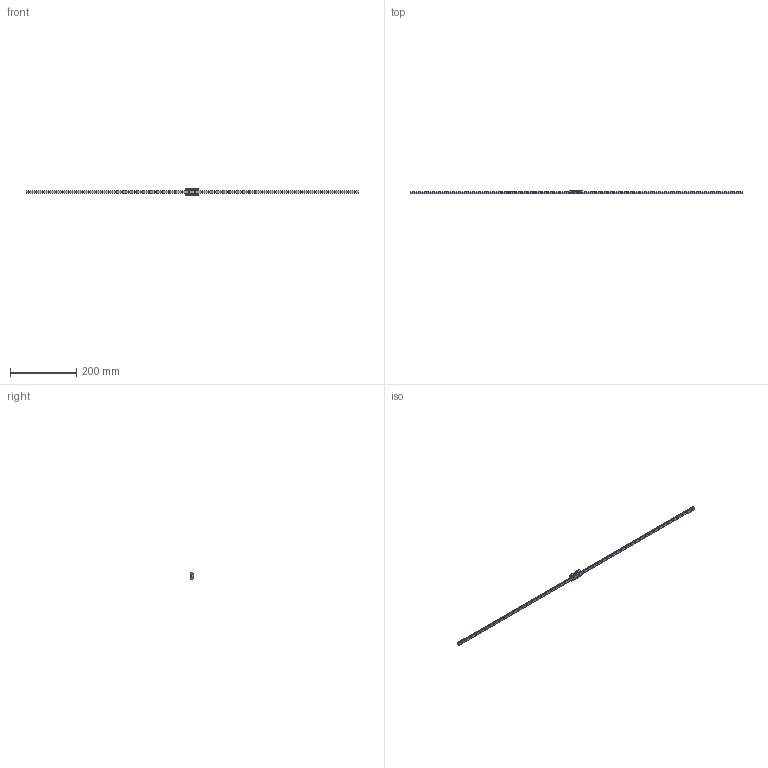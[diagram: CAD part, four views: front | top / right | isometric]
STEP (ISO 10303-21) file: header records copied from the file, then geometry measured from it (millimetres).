
FILE_DESCRIPTION( ( '' ), '1' );
FILE_NAME( 'C:/Users/v3-771-32344/Documents/Website 2016/STEP/SRS9N1UU1000100479.6000.stp', '2016-11-10T13:09:32', ( '' ), ( '' ), ' ', ' ', ' ' );
FILE_SCHEMA( ( 'CONFIG_CONTROL_DESIGN' ) );
Length unit declared in the file: millimetre
Products named in the file (2): 1; 2
Bounding box: 1000 x 10 x 20 mm (x, y, z)
Volume: 44677.1 mm3; surface area: 35263.4 mm2
Topology: 2 solids, 2 shells, 374 faces, 926 edges, 604 vertices
Faces by surface type: cylinder 230, plane 128, cone 16
Entity records: 11506 total; most frequent: DIRECTION 2138, CARTESIAN_POINT 1898, ORIENTED_EDGE 1836, EDGE_CURVE 918, AXIS2_PLACEMENT_3D 844, VERTEX_POINT 604, EDGE_LOOP 530, CIRCLE 464
